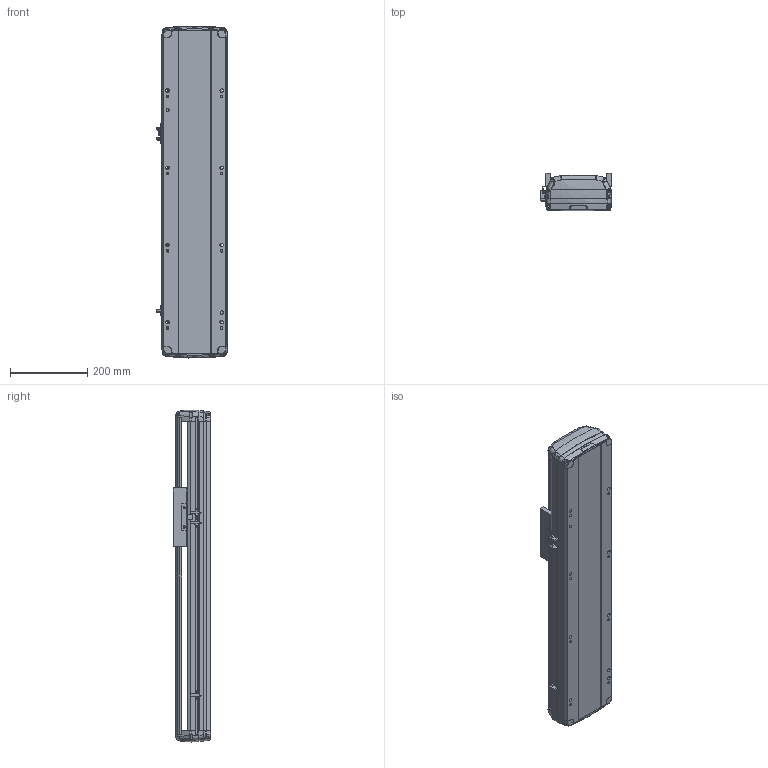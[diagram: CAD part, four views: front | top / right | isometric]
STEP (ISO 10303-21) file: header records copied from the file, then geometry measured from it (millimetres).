
FILE_DESCRIPTION (( 'STEP AP214' ), '1' );
FILE_NAME ('RTH17-XX-450-B-M40-C4.STEP', '2025-10-24T08:34:41', ( '' ), ( '' ), 'SwSTEP 2.0', 'SolidWorks 2018', '' );
FILE_SCHEMA (( 'AUTOMOTIVE_DESIGN' ));
Length unit declared in the file: millimetre
Products named in the file (7): N_RTH-L-012 感应片(外置)^RTH17-XX-XX-B-M40-C4（方程式）; N_OMRON EE-SX672 換覜ん^RTH17-XX-XX-B-M40-C4ㄗ源最宒ㄘ; RTH17-XX-450-B-M40-C4; N_RTH17-GY-001P^RTH17-XX-XX-B-M40-C4（方程式）; N_RTH17-M-011底座^RTH17-XX-XX-B-M40-C4（方程式）; N_RTH17-M-007上盖^RTH17-XX-XX-B-M40-C4（方程式）; N_RTH17-E-004丝杆螺母连接座^RTH17-XX-XX-B-M40-C4（方程式）
Assembly tree (9 placements, depth 2):
  RTH17-XX-450-B-M40-C4
    N_RTH17-M-011底座^RTH17-XX-XX-B-M40-C4（方程式）
    N_RTH17-M-007上盖^RTH17-XX-XX-B-M40-C4（方程式）
    N_OMRON EE-SX672 換覜ん^RTH17-XX-XX-B-M40-C4ㄗ源最宒ㄘ  x3
    N_RTH-L-012 感应片(外置)^RTH17-XX-XX-B-M40-C4（方程式）
    N_RTH17-E-004丝杆螺母连接座^RTH17-XX-XX-B-M40-C4（方程式）
    N_RTH17-GY-001P^RTH17-XX-XX-B-M40-C4（方程式）  x2
Bounding box: 183.5 x 97 x 859.88 mm (x, y, z)
Volume: 6453063.6 mm3; surface area: 927691.9 mm2
Topology: 7 solids, 11 shells, 1704 faces, 4772 edges, 3098 vertices
Faces by surface type: plane 807, cylinder 431, bspline 420, cone 28, torus 18
Entity records: 39510 total; most frequent: CARTESIAN_POINT 16535, ORIENTED_EDGE 5048, DIRECTION 3976, EDGE_CURVE 2528, VERTEX_POINT 1652, LINE 1400, VECTOR 1400, AXIS2_PLACEMENT_3D 1288
